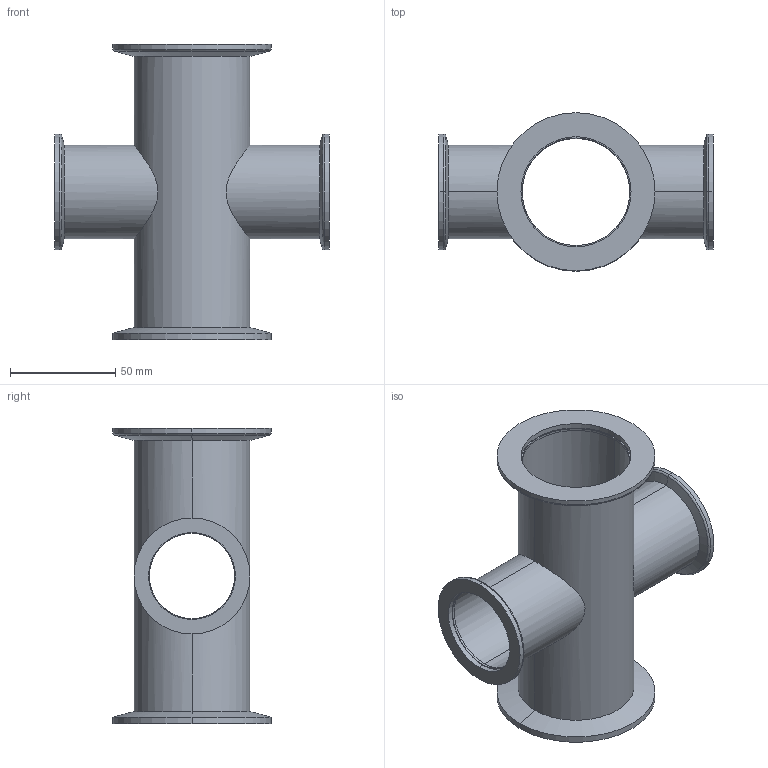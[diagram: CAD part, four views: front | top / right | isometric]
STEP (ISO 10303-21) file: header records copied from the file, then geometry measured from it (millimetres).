
FILE_DESCRIPTION (( 'STEP AP214' ), '1' );
FILE_NAME ('W3RKS50-40.STEP', '2020-08-20T12:36:49', ( '' ), ( '' ), 'SwSTEP 2.0', 'SolidWorks 2020', '' );
FILE_SCHEMA (( 'AUTOMOTIVE_DESIGN' ));
Length unit declared in the file: millimetre
Products named in the file (1): W3RKS50-40
Bounding box: 130 x 75 x 140 mm (x, y, z)
Volume: 86234 mm3; surface area: 81260.6 mm2
Topology: 7 solids, 7 shells, 81 faces, 170 edges, 102 vertices
Faces by surface type: cylinder 51, plane 16, cone 8, torus 6
Entity records: 3224 total; most frequent: CARTESIAN_POINT 1322, DIRECTION 410, ORIENTED_EDGE 340, AXIS2_PLACEMENT_3D 174, EDGE_CURVE 170, VERTEX_POINT 102, EDGE_LOOP 98, CIRCLE 92
